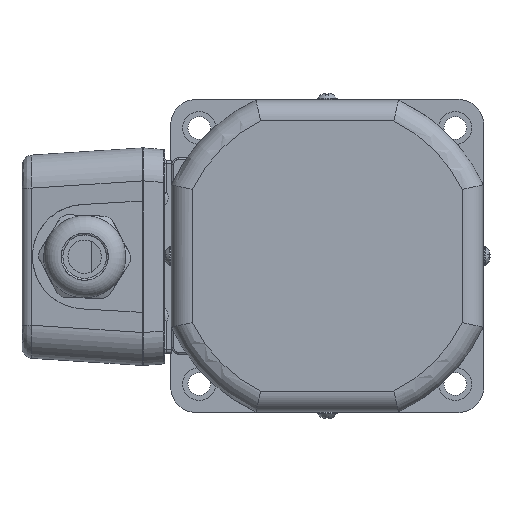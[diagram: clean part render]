
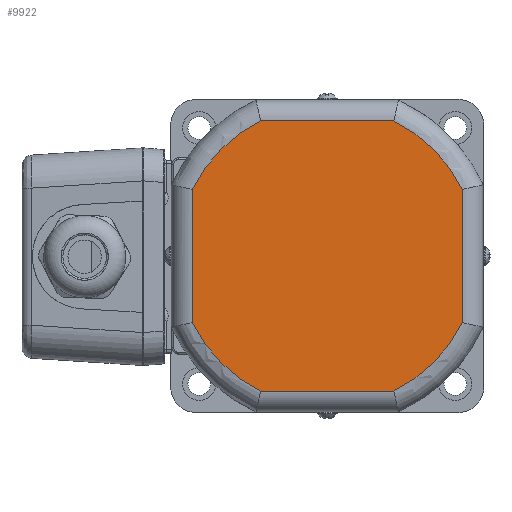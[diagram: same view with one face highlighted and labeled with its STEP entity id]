
A CAD part, left-side view. The second image highlights one B-rep face of the part: STEP entity #9922.
In plain terms, the highlighted planar face has unit normal (-1, 0, 0).
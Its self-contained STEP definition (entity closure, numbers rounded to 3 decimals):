
#9549=CARTESIAN_POINT('',(-17.8,-19.108,-38.8));
#9550=VERTEX_POINT('',#9549);
#9577=CARTESIAN_POINT('',(-17.8,-38.8,-19.108));
#9578=VERTEX_POINT('',#9577);
#9596=CARTESIAN_POINT('',(-17.8,0.,0.));
#9597=DIRECTION('',(1.0,0.0,0.0));
#9598=DIRECTION('',(0.0,-0.707,-0.707));
#9599=AXIS2_PLACEMENT_3D('',#9596,#9597,#9598);
#9600=CIRCLE('',#9599,43.25);
#9601=EDGE_CURVE('',#9578,#9550,#9600,.T.);
#9613=CARTESIAN_POINT('',(-17.8,-38.8,19.108));
#9614=VERTEX_POINT('',#9613);
#9632=CARTESIAN_POINT('',(-17.8,-38.8,19.108));
#9633=DIRECTION('',(0.0,0.0,-1.0));
#9634=VECTOR('',#9633,38.216);
#9635=LINE('',#9632,#9634);
#9636=EDGE_CURVE('',#9614,#9578,#9635,.T.);
#9655=CARTESIAN_POINT('',(-17.8,19.108,-38.8));
#9656=VERTEX_POINT('',#9655);
#9681=CARTESIAN_POINT('',(-17.8,-19.108,-38.8));
#9682=DIRECTION('',(0.0,1.0,0.0));
#9683=VECTOR('',#9682,38.216);
#9684=LINE('',#9681,#9683);
#9685=EDGE_CURVE('',#9550,#9656,#9684,.T.);
#9695=CARTESIAN_POINT('',(-17.8,-19.108,38.8));
#9696=VERTEX_POINT('',#9695);
#9714=CARTESIAN_POINT('',(-17.8,0.,0.));
#9715=DIRECTION('',(1.0,0.0,0.0));
#9716=DIRECTION('',(0.0,-0.707,0.707));
#9717=AXIS2_PLACEMENT_3D('',#9714,#9715,#9716);
#9718=CIRCLE('',#9717,43.25);
#9719=EDGE_CURVE('',#9696,#9614,#9718,.T.);
#9737=CARTESIAN_POINT('',(-17.8,38.8,-19.108));
#9738=VERTEX_POINT('',#9737);
#9764=CARTESIAN_POINT('',(-17.8,0.,0.));
#9765=DIRECTION('',(1.,0.0,0.0));
#9766=DIRECTION('',(0.0,0.707,-0.707));
#9767=AXIS2_PLACEMENT_3D('',#9764,#9765,#9766);
#9768=CIRCLE('',#9767,43.25);
#9769=EDGE_CURVE('',#9656,#9738,#9768,.T.);
#9779=CARTESIAN_POINT('',(-17.8,19.108,38.8));
#9780=VERTEX_POINT('',#9779);
#9798=CARTESIAN_POINT('',(-17.8,19.108,38.8));
#9799=DIRECTION('',(0.0,-1.0,0.0));
#9800=VECTOR('',#9799,38.216);
#9801=LINE('',#9798,#9800);
#9802=EDGE_CURVE('',#9780,#9696,#9801,.T.);
#9814=CARTESIAN_POINT('',(-17.8,38.8,19.108));
#9815=VERTEX_POINT('',#9814);
#9835=CARTESIAN_POINT('',(-17.8,38.8,-19.108));
#9836=DIRECTION('',(0.0,0.0,1.0));
#9837=VECTOR('',#9836,38.216);
#9838=LINE('',#9835,#9837);
#9839=EDGE_CURVE('',#9738,#9815,#9838,.T.);
#9850=CARTESIAN_POINT('',(-17.8,0.,0.));
#9851=DIRECTION('',(1.0,0.0,0.0));
#9852=DIRECTION('',(0.0,0.707,0.707));
#9853=AXIS2_PLACEMENT_3D('',#9850,#9851,#9852);
#9854=CIRCLE('',#9853,43.25);
#9855=EDGE_CURVE('',#9815,#9780,#9854,.T.);
#9907=CARTESIAN_POINT('',(-17.8,0.,0.));
#9908=DIRECTION('',(1.0,0.0,0.0));
#9909=DIRECTION('',(0.0,0.0,-1.0));
#9910=AXIS2_PLACEMENT_3D('',#9907,#9908,#9909);
#9911=PLANE('',#9910);
#9912=ORIENTED_EDGE('',*,*,#9839,.F.);
#9913=ORIENTED_EDGE('',*,*,#9769,.F.);
#9914=ORIENTED_EDGE('',*,*,#9685,.F.);
#9915=ORIENTED_EDGE('',*,*,#9601,.F.);
#9916=ORIENTED_EDGE('',*,*,#9636,.F.);
#9917=ORIENTED_EDGE('',*,*,#9719,.F.);
#9918=ORIENTED_EDGE('',*,*,#9802,.F.);
#9919=ORIENTED_EDGE('',*,*,#9855,.F.);
#9920=EDGE_LOOP('',(#9912,#9913,#9914,#9915,#9916,#9917,#9918,#9919));
#9921=FACE_OUTER_BOUND('',#9920,.T.);
#9922=ADVANCED_FACE('',(#9921),#9911,.F.);
